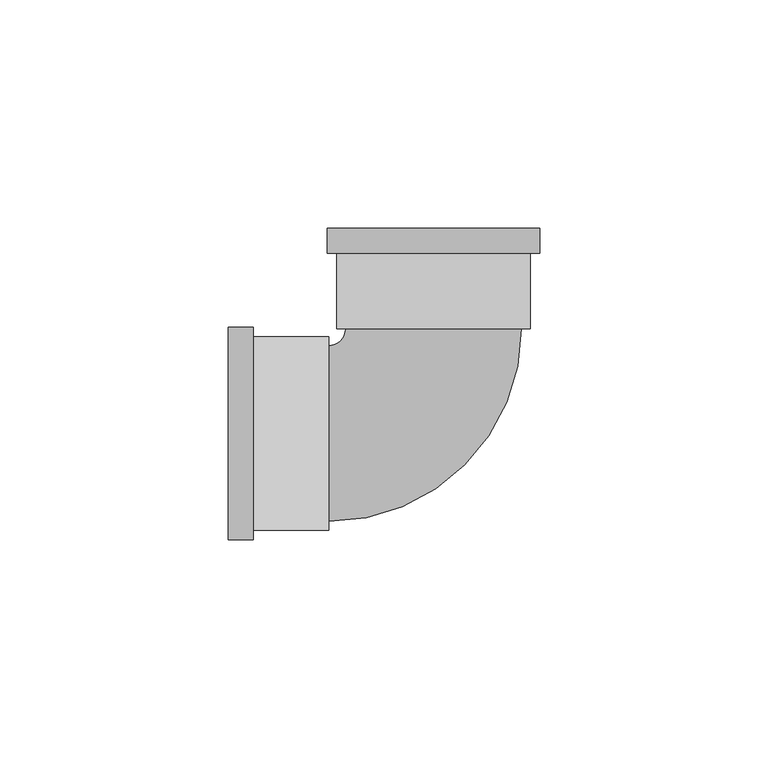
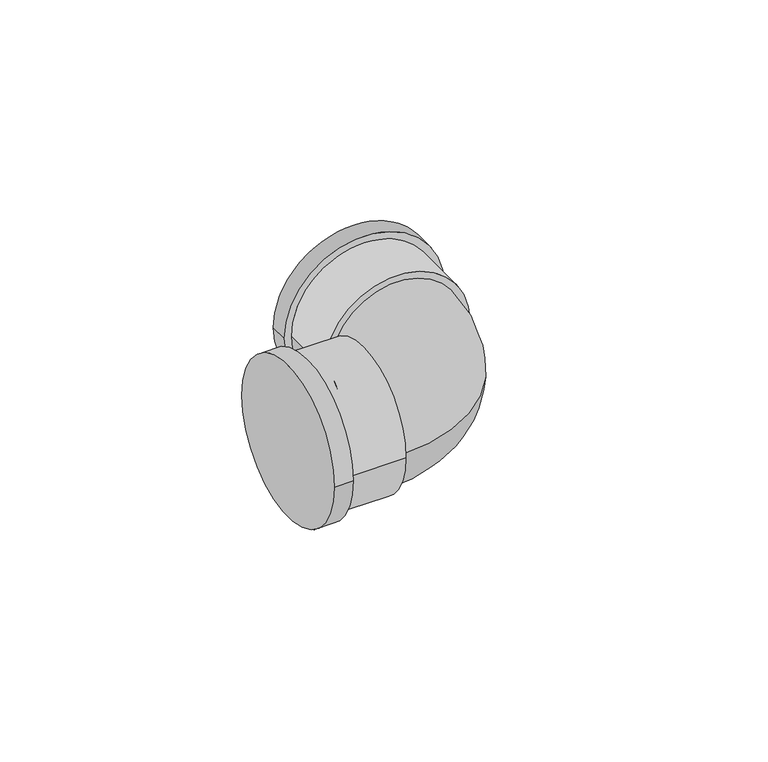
"""IFC4 building model written with IfcOpenShell, lengths in millimetres: pipe fitting geometry, Cotovelo - PVC - CW : Padrão."""

from ifc_helpers import new_model, si_unit, point, frame, origin, place, context, project, spatial, circle_curve, ellipse_curve, trimmed, source, transform, mapped, element, save
from ifc_brep_helpers import plane_surface, cylinder_surface, revolved_surface, advanced_brep


def pipe_fitting_074f5d0f(model_context):
    return source(origin(), model_context, "Body", "AdvancedBrep", [
        advanced_brep(
        [(-45.0008156, -23.2925, 0.0), (-45.0008156, 23.2925, 0.0), (-39.5008156, -23.2925, 0.0), (-39.5008156, 23.2925, 0.0), (-39.5008156, -21.175, 0.0), (-39.5008156, 21.175, 0.0), (-23.0008156, 21.175, 0.0), (-23.0008156, -21.175, 0.0), (-23.0008156, -19.25, 0.0), (-23.0008156, 19.25, 0.0), (-19.2508156, 23.000133, 0.0), (19.2491844, 23.0014981, 0.0), (21.1741844, 23.0015664, 0.0), (-21.1758156, 23.0000647, 0.0), (-23.2940956, 44.9999896, 0.0), (23.2909043, 45.0016415, 0.0), (21.1735993, 39.5015664, 0.0), (-21.1764006, 39.5000647, 0.0), (-23.2939006, 39.4999896, 0.0), (23.2910993, 39.5016415, 0.0)],
        [
            (0, 1, circle_curve(frame((-45.0008156, 0.0, 0.0), z_axis=(-1.0, 0.0, 0.0), x_axis=(0.0, 1.0, 0.0)), 23.2925)),
            (1, 0, circle_curve(frame((-45.0008156, 0.0, 0.0), z_axis=(-1.0, 0.0, 0.0), x_axis=(0.0, 1.0, 0.0)), 23.2925)),
            (2, 3, circle_curve(frame((-39.5008156, 0.0, 0.0), z_axis=(1.0, 0.0, 0.0), x_axis=(0.0, 1.0, 0.0)), 23.2925)),
            (3, 2, circle_curve(frame((-39.5008156, 0.0, 0.0), z_axis=(1.0, 0.0, 0.0), x_axis=(0.0, 1.0, 0.0)), 23.2925)),
            (4, 5, circle_curve(frame((-39.5008156, 0.0, 0.0), z_axis=(-1.0, 0.0, 0.0), x_axis=(0.0, -1.0, 0.0)), 21.175)),
            (5, 4, circle_curve(frame((-39.5008156, 0.0, 0.0), z_axis=(-1.0, 0.0, 0.0), x_axis=(0.0, -1.0, 0.0)), 21.175)),
            (0, 2),
            (3, 1),
            (6, 7, circle_curve(frame((-23.0008156, 0.0, 0.0), z_axis=(1.0, 0.0, 0.0), x_axis=(0.0, -1.0, 0.0)), 21.175)),
            (7, 6, circle_curve(frame((-23.0008156, 0.0, 0.0), z_axis=(1.0, 0.0, 0.0), x_axis=(0.0, -1.0, 0.0)), 21.175)),
            (8, 9, circle_curve(frame((-23.0008156, 0.0, 0.0), z_axis=(-1.0, 0.0, 0.0), x_axis=(0.0, 1.0, 0.0)), 19.25)),
            (9, 8, circle_curve(frame((-23.0008156, 0.0, 0.0), z_axis=(-1.0, 0.0, 0.0), x_axis=(0.0, 1.0, 0.0)), 19.25)),
            (6, 5),
            (4, 7),
            (10, 9, circle_curve(frame((-23.0008156, 23.0, 0.0), z_axis=(0.0, 0.0, -1.0), x_axis=(0.0, -1.0, 0.0)), 3.75)),
            (8, 11, circle_curve(frame((-23.0008156, 23.0, 0.0), z_axis=(0.0, 0.0, 1.0), x_axis=(0.0, -1.0, 0.0)), 42.25)),
            (11, 10, circle_curve(frame((-0.0008156, 23.0008155, 0.0), z_axis=(3.545855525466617e-05, -0.9999999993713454, 0.0), x_axis=(-0.9999999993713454, -3.545855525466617e-05, 0.0)), 19.25)),
            (10, 11, circle_curve(frame((-0.0008156, 23.0008155, 0.0), z_axis=(3.545855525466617e-05, -0.9999999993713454, 0.0), x_axis=(-0.9999999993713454, -3.545855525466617e-05, 0.0)), 19.25)),
            (12, 13, circle_curve(frame((-0.0008156, 23.0008155, 0.0), z_axis=(3.545855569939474e-05, -0.9999999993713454, 0.0), x_axis=(-0.9999999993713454, -3.545855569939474e-05, 0.0)), 21.175)),
            (13, 12, circle_curve(frame((-0.0008156, 23.0008155, 0.0), z_axis=(3.545855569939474e-05, -0.9999999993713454, 0.0), x_axis=(-0.9999999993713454, -3.545855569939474e-05, 0.0)), 21.175)),
            (14, 15, circle_curve(frame((-0.0015957, 45.0008155, 0.0), z_axis=(-3.5458555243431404e-05, 0.9999999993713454, 0.0), x_axis=(0.9999999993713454, 3.5458555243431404e-05, 0.0)), 23.2925)),
            (15, 14, circle_curve(frame((-0.0015957, 45.0008155, 0.0), z_axis=(-3.5458555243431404e-05, 0.9999999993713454, 0.0), x_axis=(0.9999999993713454, 3.5458555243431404e-05, 0.0)), 23.2925)),
            (12, 16),
            (16, 17, circle_curve(frame((-0.0014006, 39.5008155, 0.0), z_axis=(3.545855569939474e-05, -0.9999999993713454, 0.0), x_axis=(-0.9999999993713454, -3.545855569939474e-05, 0.0)), 21.175)),
            (17, 13),
            (17, 16, circle_curve(frame((-0.0014006, 39.5008155, 0.0), z_axis=(3.545855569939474e-05, -0.9999999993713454, 0.0), x_axis=(-0.9999999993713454, -3.545855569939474e-05, 0.0)), 21.175)),
            (18, 19, circle_curve(frame((-0.0014006, 39.5008155, 0.0), z_axis=(3.5458555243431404e-05, -0.9999999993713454, 0.0), x_axis=(0.9999999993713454, 3.5458555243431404e-05, 0.0)), 23.2925)),
            (19, 18, circle_curve(frame((-0.0014006, 39.5008155, 0.0), z_axis=(3.5458555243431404e-05, -0.9999999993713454, 0.0), x_axis=(0.9999999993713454, 3.5458555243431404e-05, 0.0)), 23.2925)),
            (14, 18),
            (19, 15),
        ],
        [
            plane_surface(frame((-45.0008156, 0.0, 0.0), z_axis=(-1.0, 0.0, 0.0), x_axis=(0.0, 0.0, 1.0))),
            plane_surface(frame((-39.5008156, 0.0, 0.0), z_axis=(1.0, 0.0, 0.0), x_axis=(0.0, 0.0, 1.0))),
            cylinder_surface(frame((-45.0008156, 0.0, 0.0), z_axis=(-1.0, 0.0, 0.0), x_axis=(0.0, 1.0, 0.0)), 23.2925),
            plane_surface(frame((-23.0008156, 0.0, 0.0), z_axis=(1.0, 0.0, 0.0), x_axis=(0.0, 0.0, 1.0))),
            cylinder_surface(frame((-23.0008156, 0.0, 0.0), z_axis=(1.0, 0.0, 0.0), x_axis=(0.0, -1.0, 0.0)), 21.175),
            revolved_surface(trimmed(ellipse_curve(frame((-23.0008156, 0.0, 0.0), z_axis=(-1.0, 0.0, 0.0), x_axis=(0.0, 1.0, 0.0)), 19.25, 19.25), [point((-23.0008156, -19.25, 0.0))], [point((-23.0008156, 19.25, 0.0))], True, "CARTESIAN"), (-23.0008156, 23.0, 0.0), (0.0, 0.0, 1.0)),
            revolved_surface(trimmed(ellipse_curve(frame((-23.0008156, 0.0, 0.0), z_axis=(-1.0, 0.0, 0.0), x_axis=(0.0, 1.0, 0.0)), 19.25, 19.25), [point((-23.0008156, 19.25, 0.0))], [point((-23.0008156, -19.25, 0.0))], True, "CARTESIAN"), (-23.0008156, 23.0, 0.0), (0.0, 0.0, 1.0)),
            plane_surface(frame((-0.0008156, 23.0008155, 0.0), z_axis=(3.545855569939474e-05, -0.9999999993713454, 0.0), x_axis=(0.0, 0.0, 1.0))),
            plane_surface(frame((-0.0015957, 45.0008155, 0.0), z_axis=(-3.545855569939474e-05, 0.9999999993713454, 0.0), x_axis=(0.0, 0.0, 1.0))),
            cylinder_surface(frame((-0.0008156, 23.0008155, 0.0), z_axis=(3.545855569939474e-05, -0.9999999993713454, 0.0), x_axis=(-0.9999999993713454, -3.545855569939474e-05, 0.0)), 21.175),
            plane_surface(frame((-0.0014006, 39.5008155, 0.0), z_axis=(3.5458555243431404e-05, -0.9999999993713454, 0.0), x_axis=(0.0, 0.0, 1.0))),
            cylinder_surface(frame((-0.0015957, 45.0008155, 0.0), z_axis=(-3.5458555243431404e-05, 0.9999999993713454, 0.0), x_axis=(0.9999999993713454, 3.5458555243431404e-05, 0.0)), 23.2925),
        ],
        [
            (0, [[1, 2]]),
            (1, [[3, 4], [5, 6]]),
            (2, [[-1, 7, -4, 8]]),
            (2, [[-2, -8, -3, -7]]),
            (3, [[9, 10], [11, 12]]),
            (4, [[-9, 13, -5, 14]]),
            (4, [[-10, -14, -6, -13]]),
            (5, [[15, -11, 16, 17]]),
            (6, [[-15, 18, -16, -12]]),
            (7, [[19, 20], [-17, -18]]),
            (8, [[21, 22]]),
            (9, [[-19, 23, 24, 25]]),
            (9, [[-20, -25, 26, -23]]),
            (10, [[27, 28], [-24, -26]]),
            (11, [[-21, 29, -28, 30]]),
            (11, [[-22, -30, -27, -29]]),
        ],
    ),
    ])


if __name__ == "__main__":
    model = new_model("IFC4")
    model_context = context("Model", 3, world=origin())
    ifc_project = project(units=[si_unit("LENGTHUNIT", "METRE", prefix="MILLI")], contexts=[model_context])
    site = spatial("IfcSite", under=ifc_project)
    building = spatial("IfcBuilding", under=site)
    placement = place(None, origin())
    pipe_fitting_shape = pipe_fitting_074f5d0f(model_context)
    element("IfcPipeFitting", 1, ObjectType="Cotovelo - PVC - CW : Padrão", at=placement, inside=building, context=model_context, shape_type="MappedRepresentation", body=[
        mapped(pipe_fitting_shape, transform((0.0, 0.0, 0.0), x_axis=(1.0, 0.0, 0.0), y_axis=(0.0, 1.0, 0.0), z_axis=(0.0, 0.0, 1.0))),
    ])
    save(model, "model.ifc")
